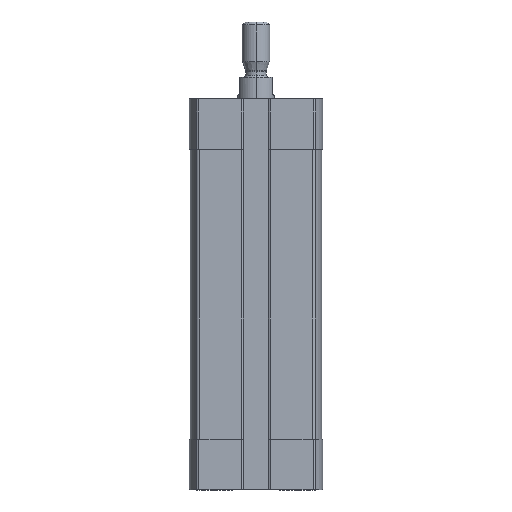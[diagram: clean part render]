
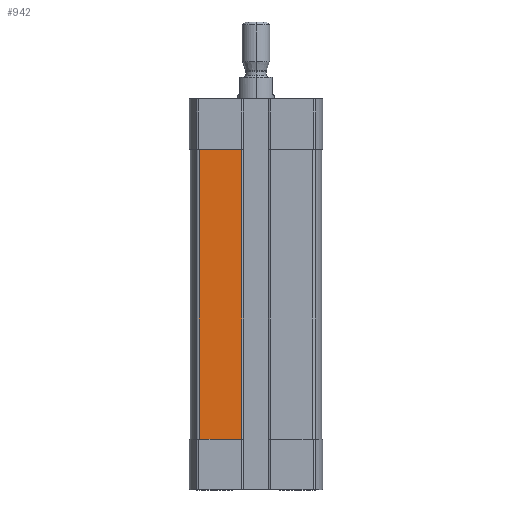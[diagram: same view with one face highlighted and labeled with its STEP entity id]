
A CAD part, left-side view. The second image highlights one B-rep face of the part: STEP entity #942.
In plain terms, the highlighted planar face has unit normal (-1, 0, 0).
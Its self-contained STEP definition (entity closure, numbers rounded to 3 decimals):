
#67 = ORIENTED_EDGE ( 'NONE', *, *, #7505, .T. ) ;
#448 = DIRECTION ( 'NONE',  ( 0., 1., 0. ) ) ;
#514 = VECTOR ( 'NONE', #9024, 1000. ) ;
#722 = VERTEX_POINT ( 'NONE', #3917 ) ;
#942 = ADVANCED_FACE ( 'NONE', ( #5153 ), #1055, .T. ) ;
#1020 = DIRECTION ( 'NONE',  ( 0., 0., 1. ) ) ;
#1034 = DIRECTION ( 'NONE',  ( -1., 0., 0. ) ) ;
#1055 = PLANE ( 'NONE',  #10548 ) ;
#1085 = CARTESIAN_POINT ( 'NONE',  ( -14.25, 12.347, -74. ) ) ;
#1223 = CARTESIAN_POINT ( 'NONE',  ( -14.25, 12.347, -74. ) ) ;
#1548 = CARTESIAN_POINT ( 'NONE',  ( -14.25, 12.347, -74. ) ) ;
#1733 = ORIENTED_EDGE ( 'NONE', *, *, #11368, .T. ) ;
#1990 = VERTEX_POINT ( 'NONE', #1548 ) ;
#2296 = EDGE_CURVE ( 'NONE', #722, #3798, #5838, .T. ) ;
#2983 = VERTEX_POINT ( 'NONE', #3124 ) ;
#3124 = CARTESIAN_POINT ( 'NONE',  ( -14.25, 12.347, -11. ) ) ;
#3242 = EDGE_LOOP ( 'NONE', ( #67, #9259, #1733, #9469 ) ) ;
#3710 = DIRECTION ( 'NONE',  ( 0., 0., -1. ) ) ;
#3798 = VERTEX_POINT ( 'NONE', #10793 ) ;
#3917 = CARTESIAN_POINT ( 'NONE',  ( -14.25, 3.1, -74. ) ) ;
#4159 = VECTOR ( 'NONE', #448, 1000. ) ;
#4439 = LINE ( 'NONE', #5837, #4159 ) ;
#5050 = VECTOR ( 'NONE', #7455, 1000. ) ;
#5153 = FACE_OUTER_BOUND ( 'NONE', #3242, .T. ) ;
#5837 = CARTESIAN_POINT ( 'NONE',  ( -14.25, 0., -11. ) ) ;
#5838 = LINE ( 'NONE', #10843, #514 ) ;
#7455 = DIRECTION ( 'NONE',  ( 0., -1., 0. ) ) ;
#7505 = EDGE_CURVE ( 'NONE', #1990, #722, #9792, .T. ) ;
#8104 = VECTOR ( 'NONE', #3710, 1000. ) ;
#8131 = CARTESIAN_POINT ( 'NONE',  ( -14.25, 12.347, -74. ) ) ;
#8388 = LINE ( 'NONE', #8131, #8104 ) ;
#8841 = EDGE_CURVE ( 'NONE', #2983, #1990, #8388, .T. ) ;
#9024 = DIRECTION ( 'NONE',  ( 0., 0., 1. ) ) ;
#9259 = ORIENTED_EDGE ( 'NONE', *, *, #2296, .T. ) ;
#9469 = ORIENTED_EDGE ( 'NONE', *, *, #8841, .T. ) ;
#9792 = LINE ( 'NONE', #1223, #5050 ) ;
#10548 = AXIS2_PLACEMENT_3D ( 'NONE', #1085, #1034, #1020 ) ;
#10793 = CARTESIAN_POINT ( 'NONE',  ( -14.25, 3.1, -11. ) ) ;
#10843 = CARTESIAN_POINT ( 'NONE',  ( -14.25, 3.1, -74. ) ) ;
#11368 = EDGE_CURVE ( 'NONE', #3798, #2983, #4439, .T. ) ;
